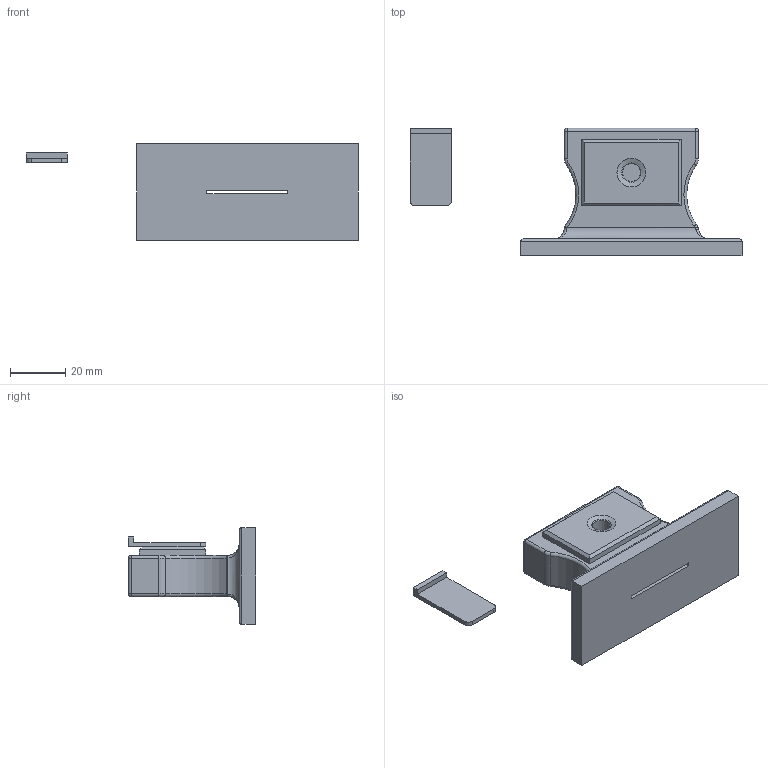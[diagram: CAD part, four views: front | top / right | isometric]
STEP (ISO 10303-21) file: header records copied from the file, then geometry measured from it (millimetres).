
FILE_DESCRIPTION(/* description */ (''),/* implementation_level */ '2;1');
FILE_NAME(/* name */ 'Ruler square.step',/* time_stamp */ '2025-11-07T11:32:45-05:00',/* author */ (''),/* organization */ (''),/* preprocessor_version */ 'ST-DEVELOPER v20.1',/* originating_system */ 'Autodesk Translation Framework v14.17.0.0',/* authorisation */ '');
FILE_SCHEMA (('AUTOMOTIVE_DESIGN { 1 0 10303 214 3 1 1 }'));
Length unit declared in the file: millimetre
Products named in the file (1): 2025-10-15-13-13-53-256
Bounding box: 120 x 46 x 35 mm (x, y, z)
Volume: 44392.3 mm3; surface area: 15665.9 mm2
Topology: 2 solids, 2 shells, 100 faces, 225 edges, 128 vertices
Faces by surface type: plane 40, cylinder 36, torus 10, sphere 6, bspline 6, cone 2
Full cylindrical faces by diameter (mm): 6.4 x2
Entity records: 2885 total; most frequent: CARTESIAN_POINT 616, DIRECTION 491, ORIENTED_EDGE 442, EDGE_CURVE 221, AXIS2_PLACEMENT_3D 179, LINE 133, VECTOR 133, VERTEX_POINT 128
